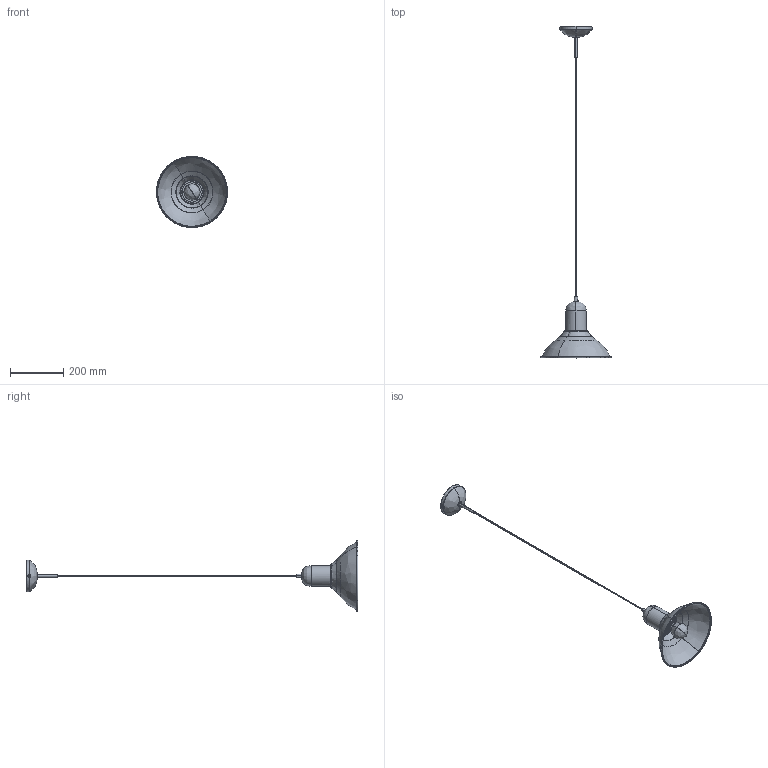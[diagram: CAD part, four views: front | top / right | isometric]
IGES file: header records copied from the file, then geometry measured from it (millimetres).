
Start section: SolidWorks IGES file using analytic representation for surfaces
Global section: file name: E:\3D lampy\Wood Boy\Wood boy 6535.IGS; native system: SolidWorks 2016; preprocessor: SolidWorks 2016; author: Asia; date: 170811.151454; units: millimetre
Bounding box: 266.96 x 1248.81 x 267.03 mm (x, y, z)
Surface area: 360155.3 mm2 (no closed solid volume)
Topology: 0 solids, 0 shells, 535 faces, 8623 edges, 8603 vertices
Faces by surface type: bspline 319, revolution 216
